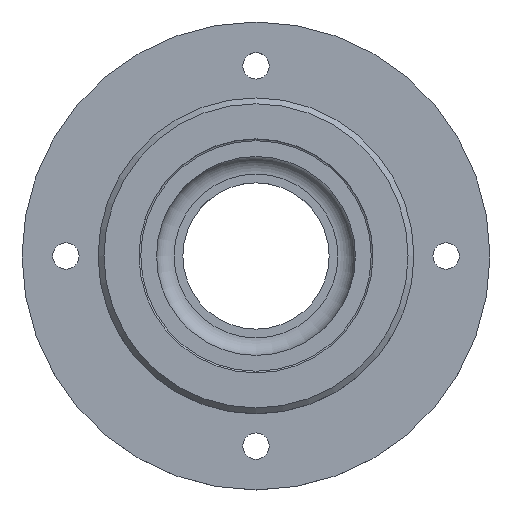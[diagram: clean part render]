
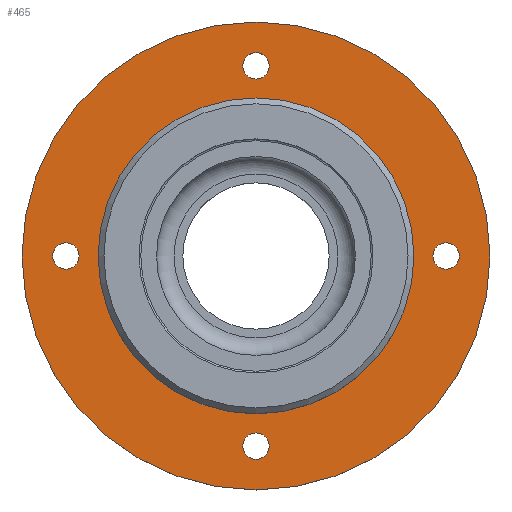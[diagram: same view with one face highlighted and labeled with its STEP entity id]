
A CAD part, top view. The second image highlights one B-rep face of the part: STEP entity #465.
In plain terms, the highlighted planar face has unit normal (0, 0, 1).
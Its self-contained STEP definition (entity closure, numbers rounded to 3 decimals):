
#82=FACE_BOUND('',#165,.T.);
#83=FACE_BOUND('',#166,.T.);
#84=FACE_BOUND('',#167,.T.);
#85=FACE_BOUND('',#168,.T.);
#86=FACE_BOUND('',#169,.T.);
#118=FACE_OUTER_BOUND('',#164,.T.);
#164=EDGE_LOOP('',(#417));
#165=EDGE_LOOP('',(#418));
#166=EDGE_LOOP('',(#419));
#167=EDGE_LOOP('',(#420));
#168=EDGE_LOOP('',(#421));
#169=EDGE_LOOP('',(#422));
#173=CIRCLE('',#495,2.25);
#177=CIRCLE('',#502,2.25);
#181=CIRCLE('',#509,2.25);
#185=CIRCLE('',#516,2.25);
#193=CIRCLE('',#529,27.);
#206=CIRCLE('',#551,40.);
#215=VERTEX_POINT('',#740);
#219=VERTEX_POINT('',#753);
#223=VERTEX_POINT('',#766);
#227=VERTEX_POINT('',#779);
#235=VERTEX_POINT('',#804);
#245=VERTEX_POINT('',#838);
#254=EDGE_CURVE('',#215,#215,#173,.T.);
#260=EDGE_CURVE('',#219,#219,#177,.T.);
#266=EDGE_CURVE('',#223,#223,#181,.T.);
#272=EDGE_CURVE('',#227,#227,#185,.T.);
#284=EDGE_CURVE('',#235,#235,#193,.T.);
#298=EDGE_CURVE('',#245,#245,#206,.T.);
#417=ORIENTED_EDGE('',*,*,#298,.F.);
#418=ORIENTED_EDGE('',*,*,#254,.T.);
#419=ORIENTED_EDGE('',*,*,#260,.T.);
#420=ORIENTED_EDGE('',*,*,#266,.T.);
#421=ORIENTED_EDGE('',*,*,#272,.T.);
#422=ORIENTED_EDGE('',*,*,#284,.T.);
#433=PLANE('',#562);
#465=ADVANCED_FACE('',(#118,#82,#83,#84,#85,#86),#433,.F.);
#495=AXIS2_PLACEMENT_3D('',#742,#579,#580);
#502=AXIS2_PLACEMENT_3D('',#755,#595,#596);
#509=AXIS2_PLACEMENT_3D('',#768,#611,#612);
#516=AXIS2_PLACEMENT_3D('',#781,#627,#628);
#529=AXIS2_PLACEMENT_3D('',#806,#657,#658);
#551=AXIS2_PLACEMENT_3D('',#839,#702,#703);
#562=AXIS2_PLACEMENT_3D('',#856,#727,#728);
#579=DIRECTION('center_axis',(0.,0.,-1.));
#580=DIRECTION('ref_axis',(0.,1.,0.));
#595=DIRECTION('center_axis',(0.,0.,-1.));
#596=DIRECTION('ref_axis',(1.,0.,0.));
#611=DIRECTION('center_axis',(0.,0.,-1.));
#612=DIRECTION('ref_axis',(0.,-1.,0.));
#627=DIRECTION('center_axis',(0.,0.,-1.));
#628=DIRECTION('ref_axis',(-1.,0.,0.));
#657=DIRECTION('center_axis',(0.,0.,-1.));
#658=DIRECTION('ref_axis',(-1.,0.,0.));
#702=DIRECTION('center_axis',(0.,0.,-1.));
#703=DIRECTION('ref_axis',(-1.,0.,0.));
#727=DIRECTION('center_axis',(0.,0.,-1.));
#728=DIRECTION('ref_axis',(-1.,0.,0.));
#740=CARTESIAN_POINT('',(0.,30.25,7.));
#742=CARTESIAN_POINT('Origin',(0.,32.5,7.));
#753=CARTESIAN_POINT('',(30.25,0.,7.));
#755=CARTESIAN_POINT('Origin',(32.5,0.,7.));
#766=CARTESIAN_POINT('',(0.,-30.25,7.));
#768=CARTESIAN_POINT('Origin',(0.,-32.5,7.));
#779=CARTESIAN_POINT('',(-30.25,0.,7.));
#781=CARTESIAN_POINT('Origin',(-32.5,0.,7.));
#804=CARTESIAN_POINT('',(27.,0.,7.));
#806=CARTESIAN_POINT('Origin',(0.,0.,7.));
#838=CARTESIAN_POINT('',(40.,0.,7.));
#839=CARTESIAN_POINT('Origin',(0.,0.,7.));
#856=CARTESIAN_POINT('Origin',(0.,0.,7.));
